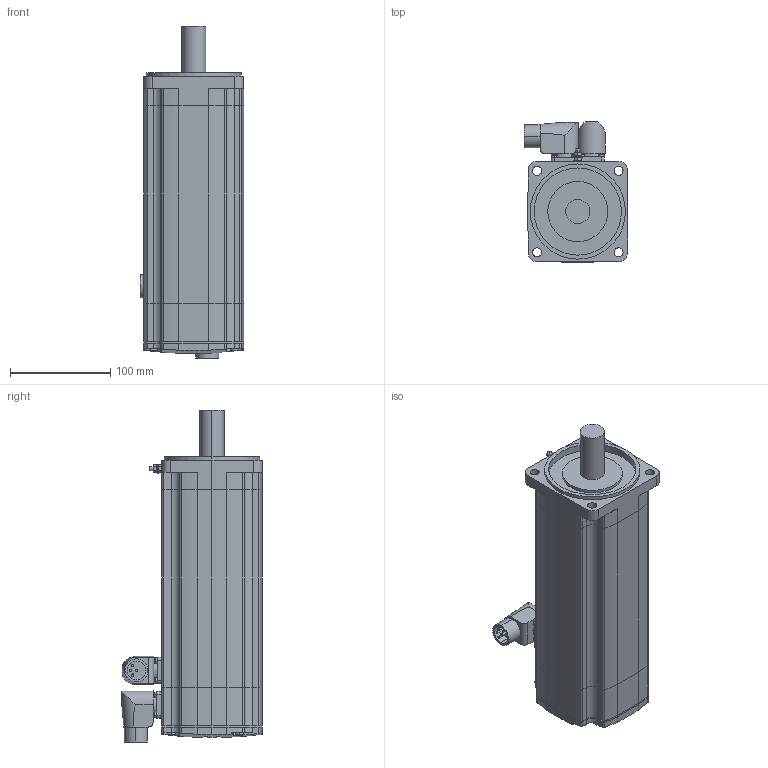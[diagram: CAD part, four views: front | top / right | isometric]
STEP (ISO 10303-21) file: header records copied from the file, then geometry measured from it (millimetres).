
FILE_DESCRIPTION (( 'STEP AP214' ), '1' );
FILE_NAME ('SH31004x0xA2100.STEP', '2013-11-29T09:11:57', ( 'Windows User' ), ( 'Schneider-Electric' ), 'SwSTEP 2.0', 'SolidWorks 2010', '' );
FILE_SCHEMA (( 'AUTOMOTIVE_DESIGN' ));
Length unit declared in the file: millimetre
Products named in the file (9): 1-100005292_DECKEL SH3-100X-X_VM0_Deckel SH3-100x; 1-100010978_K-FLACHDICHTUNG BMH-MH3-100_000; 1-100008869_LAGERSCHILD-SH3-100X-A_VM0_Lagerschild-SH3-100x-A; 1-100010762_GEHÄUSE SH3100X_VM0_Gehäuse SH3-1004-A und F; 1-100010770_K-Flansch SH3-100X_VM0_Flansch SH3-1004 mit Welle ohne Passfeder; 1-100011011_K-ERDUNGSBOLZEN M4_000; K-POWER-CONINVERS-ABGEWIN_POWER-CONINVERS-ABGEWINKELT_000_ohne Bremse; K-ENCODER-CONINVERS-ABGEW_ENCODER-CONINVERS-ABGEWINKELT_000_Single- MultiTurn; SH31004x0xA2100
Assembly tree (8 placements, depth 2):
  SH31004x0xA2100
    1-100011011_K-ERDUNGSBOLZEN M4_000
    K-POWER-CONINVERS-ABGEWIN_POWER-CONINVERS-ABGEWINKELT_000_ohne Bremse
    K-ENCODER-CONINVERS-ABGEW_ENCODER-CONINVERS-ABGEWINKELT_000_Single- MultiTurn
    1-100010978_K-FLACHDICHTUNG BMH-MH3-100_000
    1-100005292_DECKEL SH3-100X-X_VM0_Deckel SH3-100x
    1-100008869_LAGERSCHILD-SH3-100X-A_VM0_Lagerschild-SH3-100x-A
    1-100010762_GEHÄUSE SH3100X_VM0_Gehäuse SH3-1004-A und F
    1-100010770_K-Flansch SH3-100X_VM0_Flansch SH3-1004 mit Welle ohne Passfeder
Bounding box: 103.65 x 139.9 x 331.45 mm (x, y, z)
Volume: 2476991.1 mm3; surface area: 215404.1 mm2
Topology: 8 solids, 8 shells, 468 faces, 1169 edges, 766 vertices
Faces by surface type: cylinder 241, plane 203, torus 16, sphere 4, bspline 4
Entity records: 15598 total; most frequent: CARTESIAN_POINT 3628, DIRECTION 2598, ORIENTED_EDGE 2338, EDGE_CURVE 1169, AXIS2_PLACEMENT_3D 1004, VERTEX_POINT 766, LINE 590, VECTOR 590
